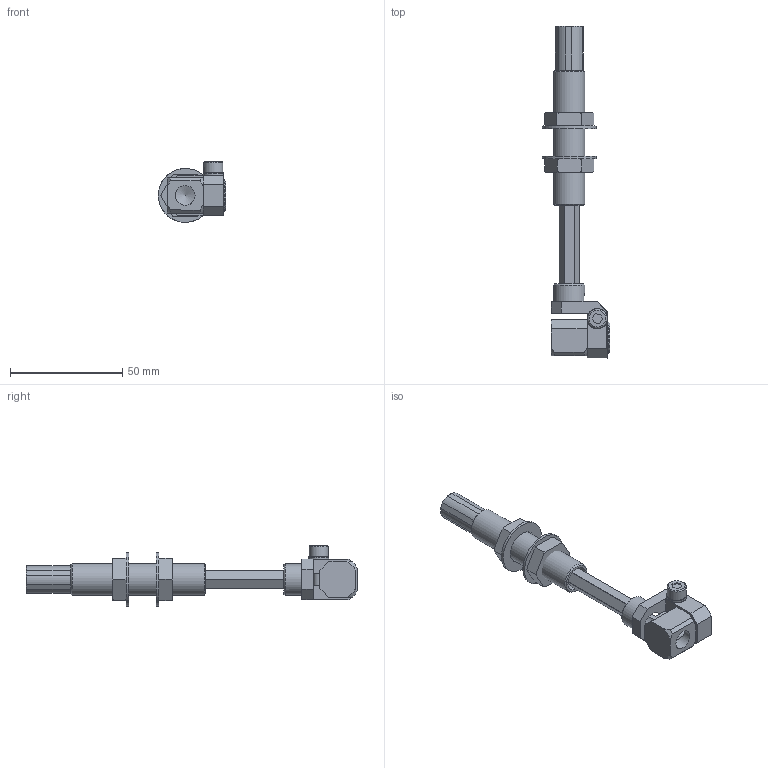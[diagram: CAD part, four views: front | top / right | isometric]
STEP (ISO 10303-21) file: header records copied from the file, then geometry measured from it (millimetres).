
FILE_DESCRIPTION(('STEP AP214'),'1');
FILE_NAME('CA.SSNG.14351818.stp','2019-02-08T15:19:48',(' '),(' '),'Spatial InterOp 3D',' ',' ');
FILE_SCHEMA(('AUTOMOTIVE_DESIGN { 1 0 10303 214 1 1 1 1 }'));
Length unit declared in the file: millimetre
Products named in the file (12): CA.SSNG.14351818; VSN.1435.4; VSNG.1435.2.1; VSN.1420.3; GGB.14.18.18; SSN.14201818.1; R.5.SCH; V.TCE5x18; M.8.5X48.50; R.14.SCH; 05.01.001.06; VSN.14.1
Assembly tree (13 placements, depth 2):
  CA.SSNG.14351818
    VSN.1435.4
    VSNG.1435.2.1
    VSN.1420.3
    GGB.14.18.18
    SSN.14201818.1
    R.5.SCH
    V.TCE5x18
    M.8.5X48.50
    R.14.SCH  x2
    05.01.001.06  x2
    VSN.14.1
Bounding box: 30.03 x 148 x 27.07 mm (x, y, z)
Volume: 20424.3 mm3; surface area: 20952.5 mm2
Topology: 12 solids, 13 shells, 391 faces, 1069 edges, 704 vertices
Faces by surface type: plane 285, cylinder 50, cone 49, torus 6, bspline 1
Full cylindrical faces by diameter (mm): 4 x1, 4.2 x1, 4.8 x1, 5 x3, 5.3 x1, 5.5 x1, 6 x2, 6.9 x2, 7.2 x1, 8.5 x1, 8.566 x1, 8.8 x3, 9 x1, 9.5 x1, 10 x1, 11 x2, 13 x2, 13.95 x2, 14 x2, 15 x2, 24 x2
Entity records: 19163 total; most frequent: CARTESIAN_POINT 6802, DIRECTION 1940, ORIENTED_EDGE 1860, EDGE_CURVE 930, AXIS2_PLACEMENT_3D 696, VERTEX_POINT 645, LINE 548, VECTOR 548
